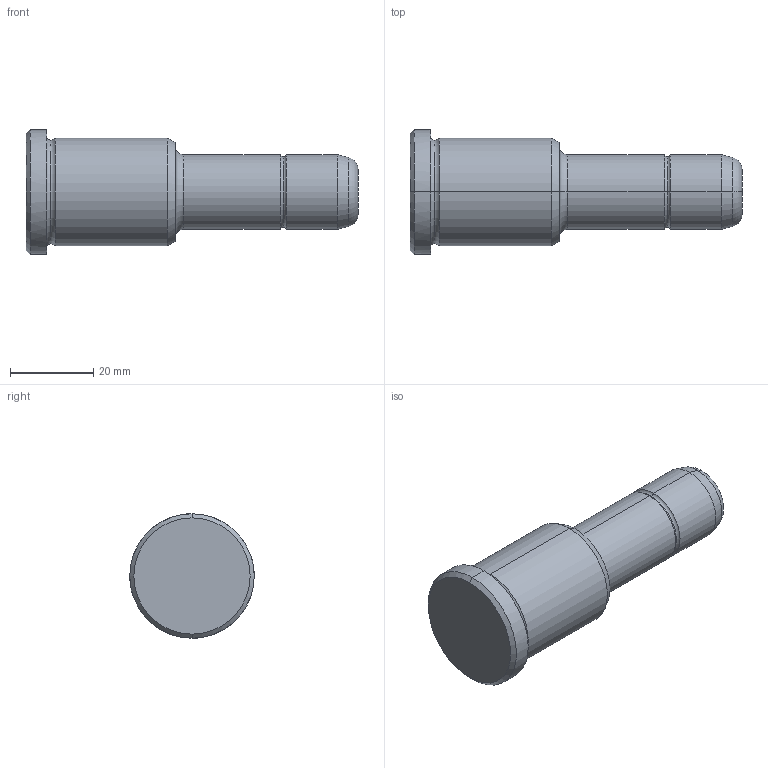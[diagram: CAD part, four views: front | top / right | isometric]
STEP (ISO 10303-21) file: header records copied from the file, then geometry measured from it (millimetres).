
FILE_DESCRIPTION(('CATIA V5 STEP Exchange'),'2;1');
FILE_NAME('C:\Users\Utente\Desktop\IO LAVORO\3D X SITO CF\X SITO\PLASTICA\351\351-18X36X80.stp','2021-08-19T12:43:11+00:00',('none'),('none'),'CATIA Version 5 Release 20 GA (IN-10)','CATIA V5 STEP AP203','none');
FILE_SCHEMA(('CONFIG_CONTROL_DESIGN'));
Length unit declared in the file: millimetre
Products named in the file (1): 351-18X36X80
Bounding box: 80 x 30 x 30 mm (x, y, z)
Volume: 30789 mm3; surface area: 6653.9 mm2
Topology: 1 solids, 1 shells, 30 faces, 86 edges, 60 vertices
Faces by surface type: torus 12, cylinder 8, cone 6, plane 4
Entity records: 1112 total; most frequent: CARTESIAN_POINT 289, ORIENTED_EDGE 172, DIRECTION 138, AXIS2_PLACEMENT_3D 95, EDGE_CURVE 86, CIRCLE 64, VERTEX_POINT 60, EDGE_LOOP 32
